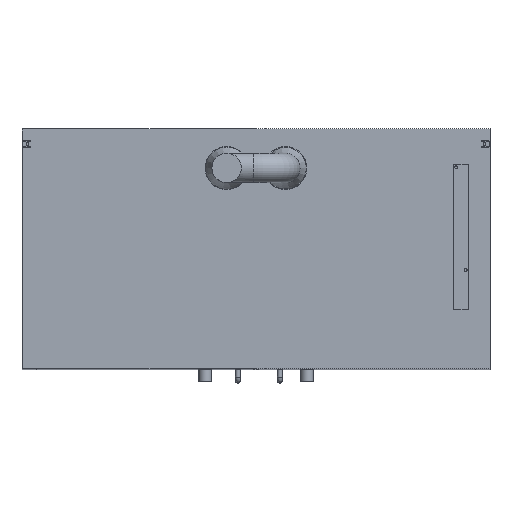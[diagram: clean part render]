
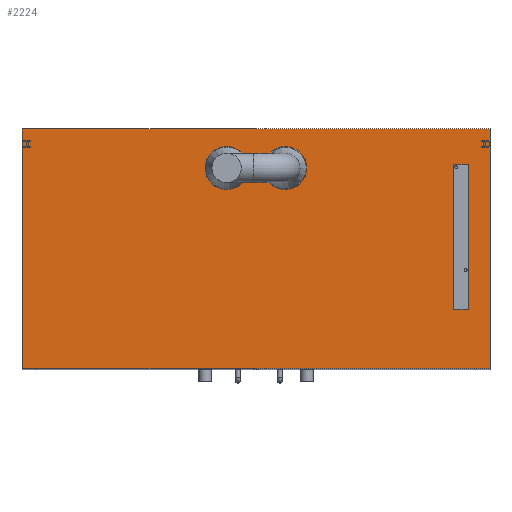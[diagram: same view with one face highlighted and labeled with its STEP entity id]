
A CAD part, top view. The second image highlights one B-rep face of the part: STEP entity #2224.
In plain terms, the highlighted planar face has unit normal (0, 0, 1).
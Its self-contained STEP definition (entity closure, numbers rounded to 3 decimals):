
#118=LINE('',#3123,#262);
#121=LINE('',#3129,#265);
#123=LINE('',#3133,#267);
#125=LINE('',#3137,#269);
#126=LINE('',#3145,#270);
#129=LINE('',#3151,#273);
#131=LINE('',#3155,#275);
#133=LINE('',#3159,#277);
#135=LINE('',#3163,#279);
#139=LINE('',#3171,#283);
#140=LINE('',#3173,#284);
#143=LINE('',#3179,#287);
#145=LINE('',#3183,#289);
#147=LINE('',#3187,#291);
#149=LINE('',#3191,#293);
#151=LINE('',#3195,#295);
#153=LINE('',#3199,#297);
#155=LINE('',#3203,#299);
#157=LINE('',#3206,#301);
#158=LINE('',#3208,#302);
#160=LINE('',#3212,#304);
#162=LINE('',#3215,#306);
#163=LINE('',#3217,#307);
#165=LINE('',#3221,#309);
#262=VECTOR('',#2695,1000.);
#265=VECTOR('',#2700,1000.);
#267=VECTOR('',#2704,1000.);
#269=VECTOR('',#2708,1000.);
#270=VECTOR('',#2719,1000.);
#273=VECTOR('',#2724,1000.);
#275=VECTOR('',#2728,1000.);
#277=VECTOR('',#2732,1000.);
#279=VECTOR('',#2736,1000.);
#283=VECTOR('',#2742,1000.);
#284=VECTOR('',#2745,1000.);
#287=VECTOR('',#2750,1000.);
#289=VECTOR('',#2754,1000.);
#291=VECTOR('',#2758,1000.);
#293=VECTOR('',#2762,1000.);
#295=VECTOR('',#2766,1000.);
#297=VECTOR('',#2770,1000.);
#299=VECTOR('',#2774,1000.);
#301=VECTOR('',#2776,1000.);
#302=VECTOR('',#2779,1000.);
#304=VECTOR('',#2783,1000.);
#306=VECTOR('',#2785,1000.);
#307=VECTOR('',#2788,1000.);
#309=VECTOR('',#2792,1000.);
#688=ORIENTED_EDGE('',*,*,#904,.T.);
#689=ORIENTED_EDGE('',*,*,#903,.T.);
#690=ORIENTED_EDGE('',*,*,#901,.T.);
#691=ORIENTED_EDGE('',*,*,#898,.F.);
#692=ORIENTED_EDGE('',*,*,#896,.T.);
#693=ORIENTED_EDGE('',*,*,#893,.T.);
#694=ORIENTED_EDGE('',*,*,#891,.T.);
#695=ORIENTED_EDGE('',*,*,#889,.T.);
#696=ORIENTED_EDGE('',*,*,#887,.T.);
#697=ORIENTED_EDGE('',*,*,#885,.T.);
#698=ORIENTED_EDGE('',*,*,#883,.T.);
#699=ORIENTED_EDGE('',*,*,#881,.T.);
#700=ORIENTED_EDGE('',*,*,#878,.T.);
#701=ORIENTED_EDGE('',*,*,#895,.T.);
#702=ORIENTED_EDGE('',*,*,#877,.F.);
#703=ORIENTED_EDGE('',*,*,#900,.F.);
#704=ORIENTED_EDGE('',*,*,#873,.T.);
#705=ORIENTED_EDGE('',*,*,#871,.T.);
#706=ORIENTED_EDGE('',*,*,#869,.T.);
#707=ORIENTED_EDGE('',*,*,#867,.T.);
#708=ORIENTED_EDGE('',*,*,#864,.T.);
#709=ORIENTED_EDGE('',*,*,#863,.T.);
#710=ORIENTED_EDGE('',*,*,#862,.T.);
#711=ORIENTED_EDGE('',*,*,#861,.F.);
#712=ORIENTED_EDGE('',*,*,#859,.F.);
#713=ORIENTED_EDGE('',*,*,#857,.F.);
#714=ORIENTED_EDGE('',*,*,#854,.F.);
#715=ORIENTED_EDGE('',*,*,#853,.T.);
#853=EDGE_CURVE('',#1018,#1018,#1085,.T.);
#854=EDGE_CURVE('',#1019,#1020,#118,.T.);
#857=EDGE_CURVE('',#1020,#1021,#121,.T.);
#859=EDGE_CURVE('',#1021,#1022,#123,.T.);
#861=EDGE_CURVE('',#1022,#1019,#125,.T.);
#862=EDGE_CURVE('',#1023,#1023,#1086,.T.);
#863=EDGE_CURVE('',#1024,#1024,#1087,.T.);
#864=EDGE_CURVE('',#1025,#1026,#126,.T.);
#867=EDGE_CURVE('',#1027,#1025,#129,.T.);
#869=EDGE_CURVE('',#1028,#1027,#131,.T.);
#871=EDGE_CURVE('',#1029,#1028,#133,.T.);
#873=EDGE_CURVE('',#1030,#1029,#135,.T.);
#877=EDGE_CURVE('',#1032,#1031,#139,.T.);
#878=EDGE_CURVE('',#1033,#1034,#140,.T.);
#881=EDGE_CURVE('',#1035,#1033,#143,.T.);
#883=EDGE_CURVE('',#1036,#1035,#145,.T.);
#885=EDGE_CURVE('',#1037,#1036,#147,.T.);
#887=EDGE_CURVE('',#1038,#1037,#149,.T.);
#889=EDGE_CURVE('',#1039,#1038,#151,.T.);
#891=EDGE_CURVE('',#1040,#1039,#153,.T.);
#893=EDGE_CURVE('',#1041,#1040,#155,.T.);
#895=EDGE_CURVE('',#1034,#1031,#157,.T.);
#896=EDGE_CURVE('',#1042,#1041,#158,.T.);
#898=EDGE_CURVE('',#1042,#1043,#160,.T.);
#900=EDGE_CURVE('',#1030,#1032,#162,.T.);
#901=EDGE_CURVE('',#1044,#1043,#163,.T.);
#903=EDGE_CURVE('',#1026,#1044,#165,.T.);
#904=EDGE_CURVE('',#1045,#1045,#1088,.T.);
#1018=VERTEX_POINT('',#3121);
#1019=VERTEX_POINT('',#3124);
#1020=VERTEX_POINT('',#3125);
#1021=VERTEX_POINT('',#3130);
#1022=VERTEX_POINT('',#3134);
#1023=VERTEX_POINT('',#3140);
#1024=VERTEX_POINT('',#3143);
#1025=VERTEX_POINT('',#3146);
#1026=VERTEX_POINT('',#3147);
#1027=VERTEX_POINT('',#3152);
#1028=VERTEX_POINT('',#3156);
#1029=VERTEX_POINT('',#3160);
#1030=VERTEX_POINT('',#3164);
#1031=VERTEX_POINT('',#3168);
#1032=VERTEX_POINT('',#3170);
#1033=VERTEX_POINT('',#3174);
#1034=VERTEX_POINT('',#3175);
#1035=VERTEX_POINT('',#3180);
#1036=VERTEX_POINT('',#3184);
#1037=VERTEX_POINT('',#3188);
#1038=VERTEX_POINT('',#3192);
#1039=VERTEX_POINT('',#3196);
#1040=VERTEX_POINT('',#3200);
#1041=VERTEX_POINT('',#3204);
#1042=VERTEX_POINT('',#3209);
#1043=VERTEX_POINT('',#3213);
#1044=VERTEX_POINT('',#3218);
#1045=VERTEX_POINT('',#3224);
#1085=CIRCLE('',#2341,3.1);
#1086=CIRCLE('',#2347,54.75);
#1087=CIRCLE('',#2349,54.75);
#1088=CIRCLE('',#2369,3.1);
#1231=EDGE_LOOP('',(#688));
#1232=EDGE_LOOP('',(#689,#690,#691,#692,#693,#694,#695,#696,#697,#698,#699,
#700,#701,#702,#703,#704,#705,#706,#707,#708));
#1233=EDGE_LOOP('',(#709));
#1234=EDGE_LOOP('',(#710));
#1235=EDGE_LOOP('',(#711,#712,#713,#714));
#1236=EDGE_LOOP('',(#715));
#1379=FACE_BOUND('',#1231,.T.);
#1380=FACE_BOUND('',#1232,.T.);
#1381=FACE_BOUND('',#1233,.T.);
#1382=FACE_BOUND('',#1234,.T.);
#1383=FACE_BOUND('',#1235,.T.);
#1384=FACE_BOUND('',#1236,.T.);
#1452=PLANE('',#2370);
#2224=ADVANCED_FACE('',(#1379,#1380,#1381,#1382,#1383,#1384),#1452,.F.);
#2341=AXIS2_PLACEMENT_3D('',#3120,#2691,#2692);
#2347=AXIS2_PLACEMENT_3D('',#3139,#2711,#2712);
#2349=AXIS2_PLACEMENT_3D('',#3142,#2715,#2716);
#2369=AXIS2_PLACEMENT_3D('',#3223,#2795,#2796);
#2370=AXIS2_PLACEMENT_3D('',#3225,#2797,#2798);
#2691=DIRECTION('',(0.,0.,-1.));
#2692=DIRECTION('',(-1.,0.,0.));
#2695=DIRECTION('',(0.,1.,0.));
#2700=DIRECTION('',(-1.,0.,0.));
#2704=DIRECTION('',(0.,-1.,0.));
#2708=DIRECTION('',(1.,0.,0.));
#2711=DIRECTION('',(0.,0.,-1.));
#2712=DIRECTION('',(1.,0.,0.));
#2715=DIRECTION('',(0.,0.,-1.));
#2716=DIRECTION('',(-1.,0.,0.));
#2719=DIRECTION('',(-1.,0.,0.));
#2724=DIRECTION('',(0.,1.,0.));
#2728=DIRECTION('',(1.,0.,0.));
#2732=DIRECTION('',(0.,1.,0.));
#2736=DIRECTION('',(-1.,0.,0.));
#2742=DIRECTION('',(-1.,0.,0.));
#2745=DIRECTION('',(-1.,0.,0.));
#2750=DIRECTION('',(0.,-1.,0.));
#2754=DIRECTION('',(1.,0.,0.));
#2758=DIRECTION('',(0.,-1.,0.));
#2762=DIRECTION('',(-1.,0.,0.));
#2766=DIRECTION('',(0.,-1.,0.));
#2770=DIRECTION('',(1.,0.,0.));
#2774=DIRECTION('',(0.,-1.,0.));
#2776=DIRECTION('',(0.,-1.,0.));
#2779=DIRECTION('',(-1.,0.,0.));
#2783=DIRECTION('',(0.,-1.,0.));
#2785=DIRECTION('',(0.,-1.,0.));
#2788=DIRECTION('',(1.,0.,0.));
#2792=DIRECTION('',(0.,1.,0.));
#2795=DIRECTION('',(0.,0.,-1.));
#2796=DIRECTION('',(-1.,0.,0.));
#2797=DIRECTION('',(0.,0.,-1.));
#2798=DIRECTION('',(-1.,0.,0.));
#3120=CARTESIAN_POINT('',(1180.,573.5,1385.));
#3121=CARTESIAN_POINT('',(1176.9,573.5,1385.));
#3123=CARTESIAN_POINT('',(1139.,152.,1385.));
#3124=CARTESIAN_POINT('',(1139.,152.,1385.));
#3125=CARTESIAN_POINT('',(1139.,521.,1385.));
#3129=CARTESIAN_POINT('',(1139.,521.,1385.));
#3130=CARTESIAN_POINT('',(1101.,521.,1385.));
#3133=CARTESIAN_POINT('',(1101.,521.,1385.));
#3134=CARTESIAN_POINT('',(1101.,152.,1385.));
#3137=CARTESIAN_POINT('',(1101.,152.,1385.));
#3139=CARTESIAN_POINT('',(671.997,512.,1385.));
#3140=CARTESIAN_POINT('',(726.747,512.,1385.));
#3142=CARTESIAN_POINT('',(522.,512.,1385.));
#3143=CARTESIAN_POINT('',(467.25,512.,1385.));
#3145=CARTESIAN_POINT('',(1172.5,581.,1385.));
#3146=CARTESIAN_POINT('',(1192.5,581.,1385.));
#3147=CARTESIAN_POINT('',(1172.5,581.,1385.));
#3151=CARTESIAN_POINT('',(1192.5,581.,1385.));
#3152=CARTESIAN_POINT('',(1192.5,566.,1385.));
#3155=CARTESIAN_POINT('',(1192.5,566.,1385.));
#3156=CARTESIAN_POINT('',(1172.5,566.,1385.));
#3159=CARTESIAN_POINT('',(1172.5,566.,1385.));
#3160=CARTESIAN_POINT('',(1172.5,564.,1385.));
#3163=CARTESIAN_POINT('',(1172.5,564.,1385.));
#3164=CARTESIAN_POINT('',(1194.,564.,1385.));
#3168=CARTESIAN_POINT('',(0.,0.,1385.));
#3170=CARTESIAN_POINT('',(1194.,0.,1385.));
#3171=CARTESIAN_POINT('',(1194.,0.,1385.));
#3173=CARTESIAN_POINT('',(21.5,564.,1385.));
#3174=CARTESIAN_POINT('',(21.5,564.,1385.));
#3175=CARTESIAN_POINT('',(0.,564.,1385.));
#3179=CARTESIAN_POINT('',(21.5,566.,1385.));
#3180=CARTESIAN_POINT('',(21.5,566.,1385.));
#3183=CARTESIAN_POINT('',(1.5,566.,1385.));
#3184=CARTESIAN_POINT('',(1.5,566.,1385.));
#3187=CARTESIAN_POINT('',(1.5,581.,1385.));
#3188=CARTESIAN_POINT('',(1.5,581.,1385.));
#3191=CARTESIAN_POINT('',(21.5,581.,1385.));
#3192=CARTESIAN_POINT('',(21.5,581.,1385.));
#3195=CARTESIAN_POINT('',(21.5,583.,1385.));
#3196=CARTESIAN_POINT('',(21.5,583.,1385.));
#3199=CARTESIAN_POINT('',(0.,583.,1385.));
#3200=CARTESIAN_POINT('',(0.,583.,1385.));
#3203=CARTESIAN_POINT('',(0.,612.,1385.));
#3204=CARTESIAN_POINT('',(0.,612.,1385.));
#3206=CARTESIAN_POINT('',(0.,612.,1385.));
#3208=CARTESIAN_POINT('',(1194.,612.,1385.));
#3209=CARTESIAN_POINT('',(1194.,612.,1385.));
#3212=CARTESIAN_POINT('',(1194.,612.,1385.));
#3213=CARTESIAN_POINT('',(1194.,583.,1385.));
#3215=CARTESIAN_POINT('',(1194.,612.,1385.));
#3217=CARTESIAN_POINT('',(1194.,583.,1385.));
#3218=CARTESIAN_POINT('',(1172.5,583.,1385.));
#3221=CARTESIAN_POINT('',(1172.5,583.,1385.));
#3223=CARTESIAN_POINT('',(14.,573.5,1385.));
#3224=CARTESIAN_POINT('',(10.9,573.5,1385.));
#3225=CARTESIAN_POINT('',(1194.,612.,1385.));
